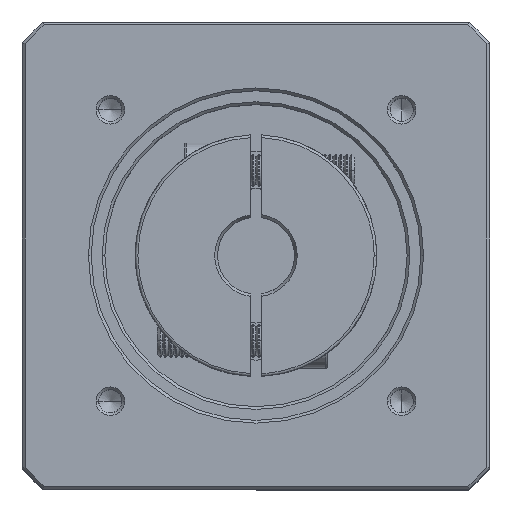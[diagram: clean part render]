
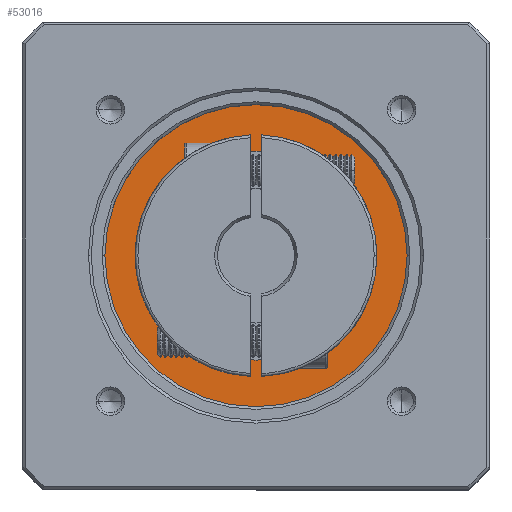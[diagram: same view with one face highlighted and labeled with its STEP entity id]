
A CAD part, top view. The second image highlights one B-rep face of the part: STEP entity #53016.
In plain terms, the highlighted planar face has unit normal (0, 0, 1).
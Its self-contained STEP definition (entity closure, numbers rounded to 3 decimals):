
#148 = DIRECTION ( 'NONE',  ( 0., 0., 1. ) ) ;
#1190 = DIRECTION ( 'NONE',  ( -1., 0., 0. ) ) ;
#13477 = VERTEX_POINT ( 'NONE', #81377 ) ;
#19500 = DIRECTION ( 'NONE',  ( 1., 0., 0. ) ) ;
#19603 = DIRECTION ( 'NONE',  ( 0., 0., 1. ) ) ;
#23033 = AXIS2_PLACEMENT_3D ( 'NONE', #111593, #101568, #42008 ) ;
#25919 = ORIENTED_EDGE ( 'NONE', *, *, #80978, .T. ) ;
#37547 = VERTEX_POINT ( 'NONE', #123157 ) ;
#37952 = AXIS2_PLACEMENT_3D ( 'NONE', #60379, #110284, #119397 ) ;
#39745 = DIRECTION ( 'NONE',  ( -1., 0., 0. ) ) ;
#42008 = DIRECTION ( 'NONE',  ( -1., 0., 0. ) ) ;
#45953 = EDGE_CURVE ( 'NONE', #46072, #13477, #124460, .T. ) ;
#46072 = VERTEX_POINT ( 'NONE', #110740 ) ;
#46470 = EDGE_LOOP ( 'NONE', ( #48750, #79256 ) ) ;
#47561 = CIRCLE ( 'NONE', #23033, 19. ) ;
#48134 = FACE_BOUND ( 'NONE', #68331, .T. ) ;
#48750 = ORIENTED_EDGE ( 'NONE', *, *, #45953, .T. ) ;
#53016 = ADVANCED_FACE ( 'NONE', ( #62264, #48134 ), #87037, .T. ) ;
#55410 = VERTEX_POINT ( 'NONE', #90790 ) ;
#60379 = CARTESIAN_POINT ( 'NONE',  ( -51.661, 42.259, 4.016 ) ) ;
#62186 = DIRECTION ( 'NONE',  ( 0., 0., 1. ) ) ;
#62264 = FACE_OUTER_BOUND ( 'NONE', #46470, .T. ) ;
#62898 = EDGE_CURVE ( 'NONE', #55410, #37547, #47561, .T. ) ;
#68331 = EDGE_LOOP ( 'NONE', ( #25919, #79850 ) ) ;
#74017 = AXIS2_PLACEMENT_3D ( 'NONE', #99347, #19603, #39745 ) ;
#79256 = ORIENTED_EDGE ( 'NONE', *, *, #122526, .T. ) ;
#79850 = ORIENTED_EDGE ( 'NONE', *, *, #62898, .T. ) ;
#80978 = EDGE_CURVE ( 'NONE', #37547, #55410, #101715, .T. ) ;
#81377 = CARTESIAN_POINT ( 'NONE',  ( -24.161, 42.259, 4.016 ) ) ;
#84347 = CIRCLE ( 'NONE', #74017, 27.5 ) ;
#87037 = PLANE ( 'NONE',  #109428 ) ;
#90790 = CARTESIAN_POINT ( 'NONE',  ( -32.661, 42.259, 4.016 ) ) ;
#93345 = AXIS2_PLACEMENT_3D ( 'NONE', #101108, #62186, #1190 ) ;
#99347 = CARTESIAN_POINT ( 'NONE',  ( -51.661, 42.259, 4.016 ) ) ;
#101108 = CARTESIAN_POINT ( 'NONE',  ( -51.661, 42.259, 4.016 ) ) ;
#101568 = DIRECTION ( 'NONE',  ( 0., 0., -1. ) ) ;
#101715 = CIRCLE ( 'NONE', #37952, 19. ) ;
#109428 = AXIS2_PLACEMENT_3D ( 'NONE', #110148, #148, #19500 ) ;
#110148 = CARTESIAN_POINT ( 'NONE',  ( -51.661, 42.259, 4.016 ) ) ;
#110284 = DIRECTION ( 'NONE',  ( 0., 0., -1. ) ) ;
#110740 = CARTESIAN_POINT ( 'NONE',  ( -79.161, 42.259, 4.016 ) ) ;
#111593 = CARTESIAN_POINT ( 'NONE',  ( -51.661, 42.259, 4.016 ) ) ;
#119397 = DIRECTION ( 'NONE',  ( -1., 0., 0. ) ) ;
#122526 = EDGE_CURVE ( 'NONE', #13477, #46072, #84347, .T. ) ;
#123157 = CARTESIAN_POINT ( 'NONE',  ( -70.661, 42.259, 4.016 ) ) ;
#124460 = CIRCLE ( 'NONE', #93345, 27.5 ) ;
